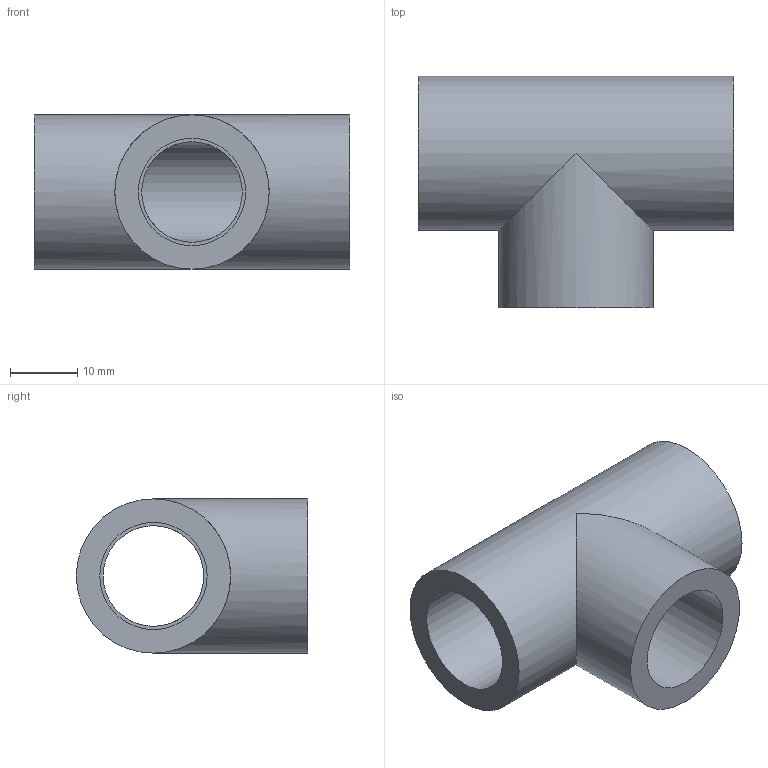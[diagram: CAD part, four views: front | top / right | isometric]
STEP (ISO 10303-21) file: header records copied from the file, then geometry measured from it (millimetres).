
FILE_DESCRIPTION(/* description */ ('PVC ti a 90° incollaggio metrico'),/* implementation_level */ '2;1');
FILE_NAME(/* name */ 'C:\Users\POLYPIPE\Desktop\DATASET INVENTOR\LIBRERIA EFFAST\RACCORDI 3DxWEB\RDR\3D_RDRTID\3D_RDRTID0160.stp',/* time_stamp */ '2018-01-19T15:37:35+01:00',/* author */ ('POLYPIPE'),/* organization */ ('Polypipe Italia s.r.l.'),/* preprocessor_version */ 'ST-DEVELOPER v16.1',/* originating_system */ 'Autodesk Inventor 2016',/* authorisation */ '');
FILE_SCHEMA (('CONFIG_CONTROL_DESIGN'));
Length unit declared in the file: millimetre
Products named in the file (1): 3D_RDRTID
Bounding box: 47 x 34.5 x 23 mm (x, y, z)
Volume: 12760 mm3; surface area: 7696.9 mm2
Topology: 1 solids, 1 shells, 13 faces, 25 edges, 18 vertices
Faces by surface type: cylinder 7, plane 6
Full cylindrical faces by diameter (mm): 15 x2, 16 x3, 23 x2
Entity records: 326 total; most frequent: DIRECTION 60, CARTESIAN_POINT 46, ORIENTED_EDGE 32, AXIS2_PLACEMENT_3D 30, EDGE_LOOP 28, VERTEX_POINT 16, EDGE_CURVE 16, FACE_BOUND 15
